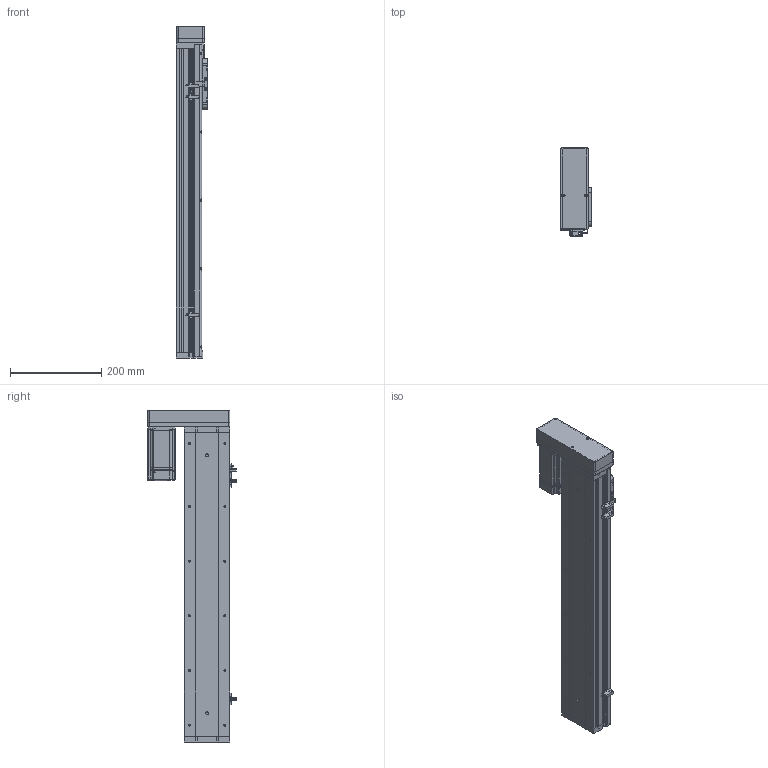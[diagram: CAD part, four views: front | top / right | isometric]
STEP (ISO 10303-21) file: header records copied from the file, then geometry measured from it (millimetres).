
FILE_DESCRIPTION (( 'STEP AP214' ), '1' );
FILE_NAME ('KSD100S-S500-ML-CR.STEP', '2019-09-02T08:12:03', ( '微软用户' ), ( '微软中国' ), 'SwSTEP 2.0', 'SolidWorks 2014', '' );
FILE_SCHEMA (( 'AUTOMOTIVE_DESIGN' ));
Length unit declared in the file: millimetre
Products named in the file (14): 100宽滚珠螺姆安装板1防护罩; 100宽滚珠螺姆安装板1; 100遵裔啣揤啣; 100遵裔啣500俴最; 100遵耜啣500俴最佪裝; 100宽底板全封闭500行程丝杆; KSD100S-S500-ML-CR; MHMD042G1CA_2_03; 悵誘欶酘衵殏; 100宽马达安装板连板左右折丝杆; U倰嫖萇EEㄜSX672; 感应片100宽全封闭; 100宽马达安装板全封闭; 100宽端板全封闭
Assembly tree (17 placements, depth 2):
  KSD100S-S500-ML-CR
    100宽底板全封闭500行程丝杆
    100遵耜啣500俴最佪裝  x2
    100遵裔啣500俴最
    100遵裔啣揤啣  x2
    100宽滚珠螺姆安装板1
    100宽滚珠螺姆安装板1防护罩
    100宽端板全封闭
    100宽马达安装板全封闭
    感应片100宽全封闭
    U倰嫖萇EEㄜSX672  x3
    100宽马达安装板连板左右折丝杆
    悵誘欶酘衵殏
    MHMD042G1CA_2_03
Bounding box: 70 x 193.7 x 728.5 mm (x, y, z)
Volume: 1539079.7 mm3; surface area: 708186 mm2
Topology: 16 solids, 17 shells, 1637 faces, 4558 edges, 2914 vertices
Faces by surface type: cylinder 703, plane 699, cone 217, bspline 18
Entity records: 54500 total; most frequent: CARTESIAN_POINT 8526, DIRECTION 7775, ORIENTED_EDGE 7196, EDGE_CURVE 3670, AXIS2_PLACEMENT_3D 2775, VERTEX_POINT 2432, VECTOR 2225, LINE 2225
